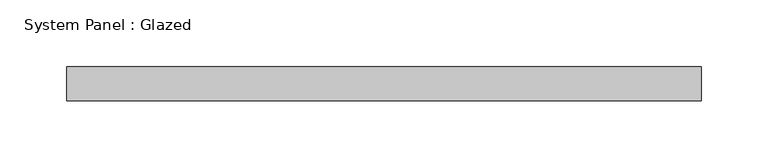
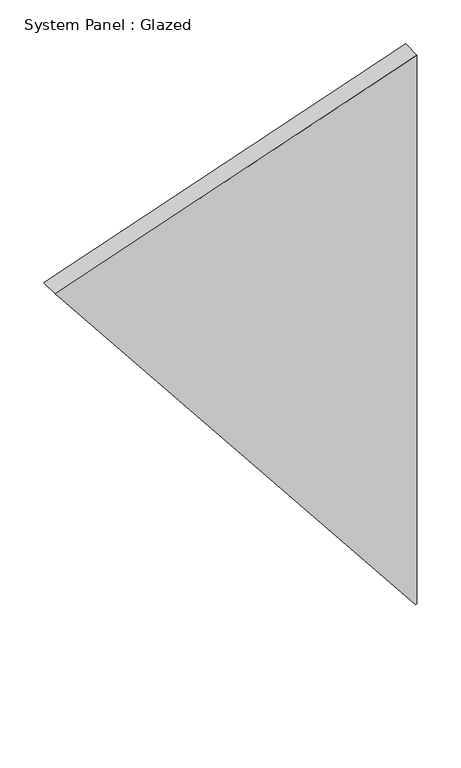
"""IFC4 building model written with IfcOpenShell, lengths in millimetres: plate geometry, System Panel : Glazed."""

from ifc_helpers import new_model, si_unit, frame, origin, place, context, project, spatial, polyline, outline, extrude, source, transform, mapped, element, save


def system_panel_glazed_1dea36c9(model_context):
    return source(origin(), model_context, "Body", "SweptSolid", [
        extrude(outline(polyline([(0.0, 236.0989329), (0.5512144, 237.6820289), (763.3943351, 237.6758315), (597.8806127, -237.6820289), (0.0, 236.0989329)])), frame((0.0, -44.45, 0.0), z_axis=(0.0, 1.0, 0.0), x_axis=(0.0, 0.0, 1.0)), (0.0, 0.0, 1.0), 25.4),
    ])


if __name__ == "__main__":
    model = new_model("IFC4")
    model_context = context("Model", 3, world=origin())
    ifc_project = project(units=[si_unit("LENGTHUNIT", "METRE", prefix="MILLI")], contexts=[model_context])
    site = spatial("IfcSite", under=ifc_project)
    building = spatial("IfcBuilding", under=site)
    placement = place(None, origin())
    system_panel_glazed_shape = system_panel_glazed_1dea36c9(model_context)
    element("IfcPlate", 1, ObjectType="System Panel : Glazed", at=placement, inside=building, context=model_context, shape_type="MappedRepresentation", body=[
        mapped(system_panel_glazed_shape, transform((0.0, 0.0, 0.0), x_axis=(1.0, 0.0, 0.0), y_axis=(0.0, 1.0, 0.0), z_axis=(0.0, 0.0, 1.0))),
    ])
    save(model, "model.ifc")
